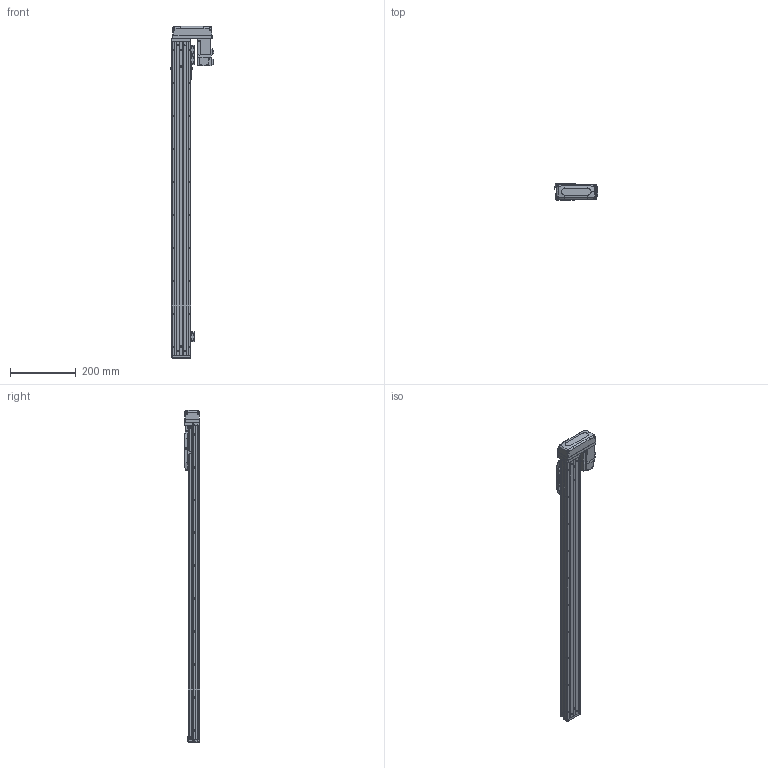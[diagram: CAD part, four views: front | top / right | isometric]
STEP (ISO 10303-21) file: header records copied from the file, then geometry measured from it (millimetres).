
FILE_DESCRIPTION (( 'STEP AP203' ), '1' );
FILE_NAME ('CTHA50-800-BL-M10-C4L.step', '2022-03-19T06:01:12', ( '微软用户' ), ( '微软中国' ), 'SwSTEP 2.0', 'SolidWorks 2020', '' );
FILE_SCHEMA (( 'CONFIG_CONTROL_DESIGN' ));
Length unit declared in the file: millimetre
Products named in the file (20): GB¨uT 70.2-M3¡Á6_M3¡Á6; CTHA60-021; CTHA60-033; EE_SX911P_R; HG-KR13（三菱）; GBT 70.1-M3×15; GBT77-2000 M3×3; CTHA50-002; CTHA50-800-BL-M10-C4L; GBT 70.1-M3℅6; CTHA50-015-2_CTHA60-015-2; CTHA50-030; KTHA50-001_950; CTHA60-017; CTHA50-031; KTHA50-004; GBT 70.1-M4×12; GBT 70.3-M3℅6; KTHA50-005; CTHA60-016
Assembly tree (60 placements, depth 2):
  CTHA50-800-BL-M10-C4L
    KTHA50-001_950
    KTHA50-004
    KTHA50-005
    GB¨uT 70.2-M3¡Á6_M3¡Á6  x10
    EE_SX911P_R  x3
    GBT77-2000 M3×3  x6
    GBT 70.1-M3℅6  x6
    CTHA60-017  x3
    GBT 70.1-M4×12  x10
    CTHA60-016  x2
    CTHA60-021  x2
    HG-KR13（三菱）
    CTHA50-002
    CTHA50-030  x2
    CTHA50-031
    GBT 70.3-M3℅6  x4
    CTHA50-015-2_CTHA60-015-2
    CTHA60-033
    GBT 70.1-M3×15  x4
Bounding box: 132.6 x 48 x 1007 mm (x, y, z)
Volume: 1819993 mm3; surface area: 461002 mm2
Topology: 62 solids, 62 shells, 2593 faces, 6191 edges, 3798 vertices
Faces by surface type: plane 1470, cylinder 606, cone 359, torus 108, bspline 26, sphere 24
Entity records: 45269 total; most frequent: CARTESIAN_POINT 8331, DIRECTION 7085, ORIENTED_EDGE 6890, EDGE_CURVE 3445, LINE 2421, VECTOR 2421, AXIS2_PLACEMENT_3D 2332, VERTEX_POINT 2172
